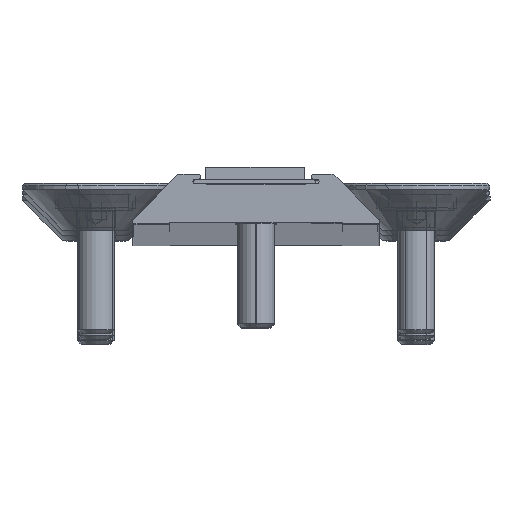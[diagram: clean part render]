
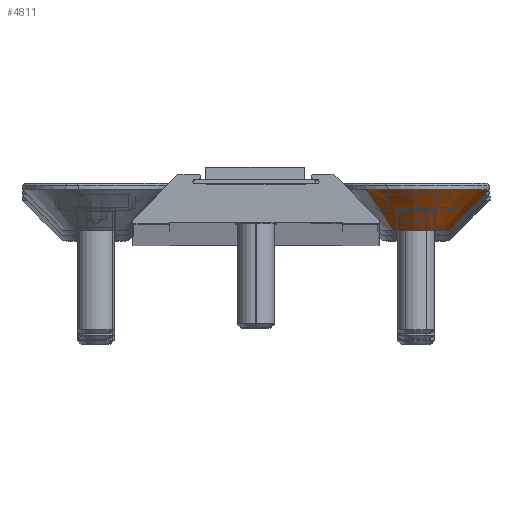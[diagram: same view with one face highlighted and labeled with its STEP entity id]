
A CAD part, top view. The second image highlights one B-rep face of the part: STEP entity #4811.
In plain terms, the highlighted conical face has half-angle 45 degrees and reference radius 6 mm.
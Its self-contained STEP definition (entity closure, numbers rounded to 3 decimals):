
#352 = CIRCLE ( 'NONE', #4952, 2.7 ) ;
#406 = EDGE_CURVE ( 'NONE', #3423, #2811, #352, .T. ) ;
#521 = DIRECTION ( 'NONE',  ( 0., -1., 0. ) ) ;
#778 = CARTESIAN_POINT ( 'NONE',  ( 0., 3.555, 2.7 ) ) ;
#1068 = CARTESIAN_POINT ( 'NONE',  ( 0., 0.255, 0. ) ) ;
#1370 = VECTOR ( 'NONE', #2560, 1000. ) ;
#1650 = CARTESIAN_POINT ( 'NONE',  ( 0., 3.555, 0. ) ) ;
#1711 = CARTESIAN_POINT ( 'NONE',  ( 0., 0.255, -6. ) ) ;
#1894 = EDGE_LOOP ( 'NONE', ( #6786, #4921, #8095, #7382 ) ) ;
#1942 = DIRECTION ( 'NONE',  ( 0., 0., -1. ) ) ;
#2153 = VECTOR ( 'NONE', #6732, 1000. ) ;
#2269 = DIRECTION ( 'NONE',  ( 0., 0., -1. ) ) ;
#2560 = DIRECTION ( 'NONE',  ( 0., -0.707, 0.707 ) ) ;
#2811 = VERTEX_POINT ( 'NONE', #6133 ) ;
#2863 = VERTEX_POINT ( 'NONE', #5588 ) ;
#3007 = FACE_OUTER_BOUND ( 'NONE', #1894, .T. ) ;
#3423 = VERTEX_POINT ( 'NONE', #778 ) ;
#3447 = CARTESIAN_POINT ( 'NONE',  ( 0., 0.255, 6. ) ) ;
#3606 = LINE ( 'NONE', #1711, #2153 ) ;
#3635 = CARTESIAN_POINT ( 'NONE',  ( 0., 0.255, 6. ) ) ;
#3718 = EDGE_CURVE ( 'NONE', #3423, #4362, #6566, .T. ) ;
#3822 = EDGE_CURVE ( 'NONE', #2811, #2863, #3606, .T. ) ;
#4362 = VERTEX_POINT ( 'NONE', #3635 ) ;
#4811 = ADVANCED_FACE ( 'NONE', ( #3007 ), #7718, .T. ) ;
#4921 = ORIENTED_EDGE ( 'NONE', *, *, #406, .T. ) ;
#4952 = AXIS2_PLACEMENT_3D ( 'NONE', #1650, #6671, #1942 ) ;
#4963 = AXIS2_PLACEMENT_3D ( 'NONE', #1068, #6010, #2269 ) ;
#5588 = CARTESIAN_POINT ( 'NONE',  ( 0., 0.255, -6. ) ) ;
#6010 = DIRECTION ( 'NONE',  ( 0., -1., 0. ) ) ;
#6133 = CARTESIAN_POINT ( 'NONE',  ( 0., 3.555, -2.7 ) ) ;
#6158 = CARTESIAN_POINT ( 'NONE',  ( 0., 0.255, 0. ) ) ;
#6244 = DIRECTION ( 'NONE',  ( 0., 0., -1. ) ) ;
#6566 = LINE ( 'NONE', #3447, #1370 ) ;
#6671 = DIRECTION ( 'NONE',  ( 0., -1., 0. ) ) ;
#6732 = DIRECTION ( 'NONE',  ( 0., -0.707, -0.707 ) ) ;
#6786 = ORIENTED_EDGE ( 'NONE', *, *, #3718, .F. ) ;
#7382 = ORIENTED_EDGE ( 'NONE', *, *, #7967, .F. ) ;
#7613 = AXIS2_PLACEMENT_3D ( 'NONE', #6158, #521, #6244 ) ;
#7718 = CONICAL_SURFACE ( 'NONE', #4963, 6., 0.785 ) ;
#7875 = CIRCLE ( 'NONE', #7613, 6. ) ;
#7967 = EDGE_CURVE ( 'NONE', #4362, #2863, #7875, .T. ) ;
#8095 = ORIENTED_EDGE ( 'NONE', *, *, #3822, .T. ) ;
